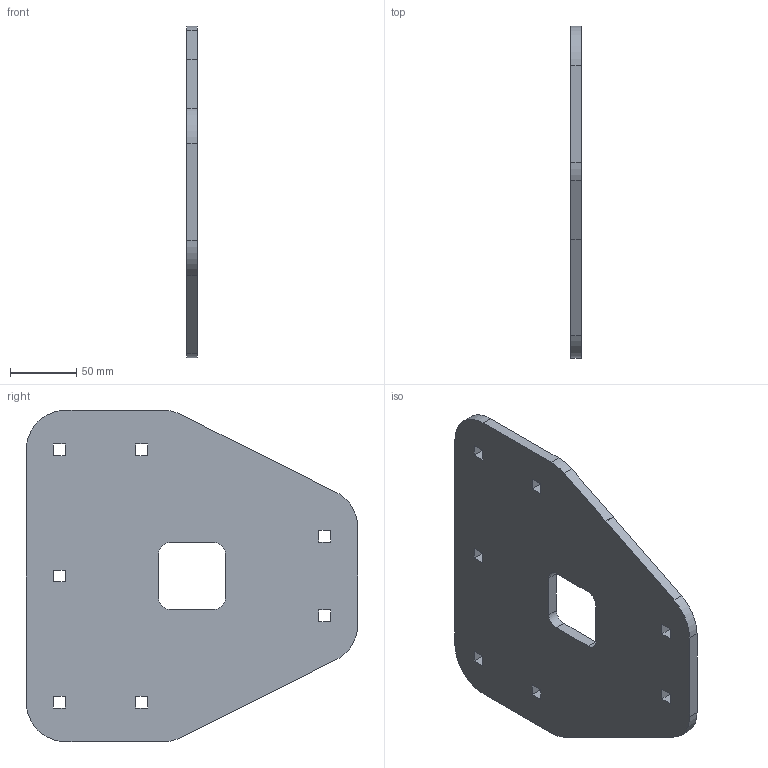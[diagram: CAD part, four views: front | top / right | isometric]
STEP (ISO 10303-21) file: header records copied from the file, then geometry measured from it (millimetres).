
FILE_DESCRIPTION(/* description */ (''),/* implementation_level */ '2;1');
FILE_NAME(/* name */ 'Holder_part_3_ver_2.step',/* time_stamp */ '2026-07-24T14:33:53+02:00',/* author */ ('dariu'),/* organization */ (''),/* preprocessor_version */ 'ST-DEVELOPER v20.1',/* originating_system */ 'Autodesk Inventor 2026',/* authorisation */ '');
FILE_SCHEMA (('AUTOMOTIVE_DESIGN { 1 0 10303 214 3 1 1 }'));
Length unit declared in the file: millimetre
Products named in the file (1): Holder_part_3_ver_1
Bounding box: 8 x 250 x 250 mm (x, y, z)
Volume: 393423.9 mm3; surface area: 108734.5 mm2
Topology: 1 solids, 1 shells, 53 faces, 153 edges, 102 vertices
Faces by surface type: plane 42, cylinder 11
Entity records: 1804 total; most frequent: CARTESIAN_POINT 309, ORIENTED_EDGE 306, DIRECTION 283, EDGE_CURVE 153, LINE 131, VECTOR 131, VERTEX_POINT 102, AXIS2_PLACEMENT_3D 76
